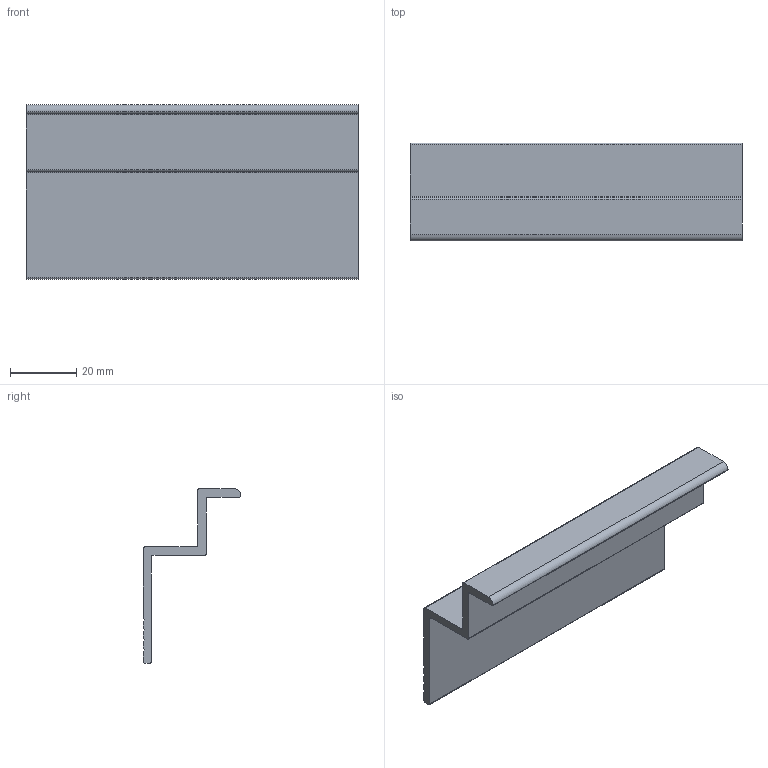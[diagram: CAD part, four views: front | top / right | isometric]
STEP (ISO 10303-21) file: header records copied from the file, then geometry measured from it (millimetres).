
FILE_DESCRIPTION (( 'STEP AP214' ), '1' );
FILE_NAME ('084.106.003.STEP', '2020-07-23T08:06:46', ( '' ), ( '' ), 'SwSTEP 2.0', 'SolidWorks 2018', '' );
FILE_SCHEMA (( 'AUTOMOTIVE_DESIGN' ));
Length unit declared in the file: millimetre
Products named in the file (1): 084.106.003
Bounding box: 100 x 29.5 x 52.5 mm (x, y, z)
Volume: 19673.1 mm3; surface area: 16680.2 mm2
Topology: 1 solids, 1 shells, 33 faces, 93 edges, 62 vertices
Faces by surface type: plane 23, cylinder 10
Entity records: 1101 total; most frequent: CARTESIAN_POINT 189, ORIENTED_EDGE 186, DIRECTION 181, EDGE_CURVE 93, LINE 73, VECTOR 73, VERTEX_POINT 62, AXIS2_PLACEMENT_3D 54
